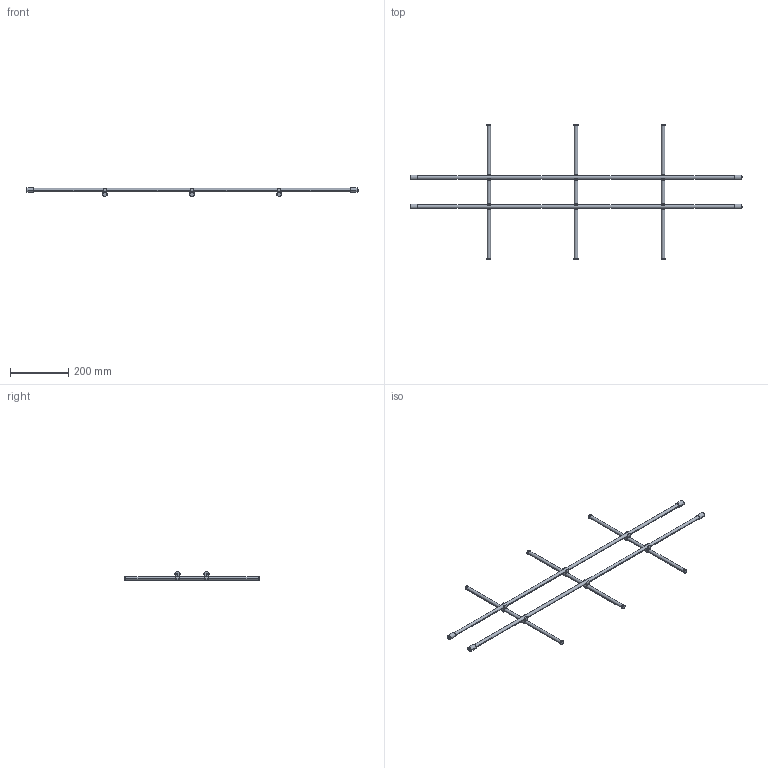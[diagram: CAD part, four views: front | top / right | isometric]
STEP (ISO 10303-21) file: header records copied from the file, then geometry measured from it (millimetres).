
FILE_DESCRIPTION (( 'STEP AP214' ), '1' );
FILE_NAME ('Magic-Classic_NL-500-KAB 1200.step', '2010-09-16T12:49:40', ( 'grass' ), ( '' ), 'SwSTEP 2.0', 'SolidWorks 2010', '' );
FILE_SCHEMA (( 'AUTOMOTIVE_DESIGN' ));
Length unit declared in the file: millimetre
Products named in the file (1): Magic-Classic_NL-500-KAB 1200
Bounding box: 1143 x 465 x 30.45 mm (x, y, z)
Volume: 440313.9 mm3; surface area: 146596.7 mm2
Topology: 1 solids, 1 shells, 190 faces, 534 edges, 356 vertices
Faces by surface type: plane 104, cylinder 86
Entity records: 6260 total; most frequent: DIRECTION 1136, CARTESIAN_POINT 1081, ORIENTED_EDGE 1068, EDGE_CURVE 534, AXIS2_PLACEMENT_3D 411, VERTEX_POINT 356, LINE 314, VECTOR 314
